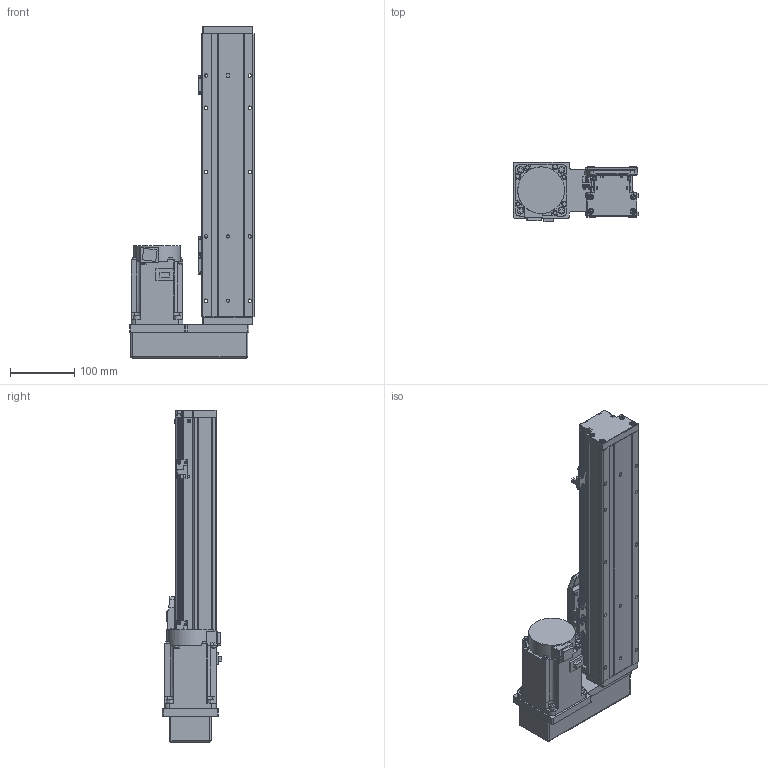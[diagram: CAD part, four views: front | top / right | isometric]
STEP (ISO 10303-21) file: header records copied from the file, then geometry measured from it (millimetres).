
FILE_DESCRIPTION (( 'STEP AP203' ), '1' );
FILE_NAME ('GTH8-250-BL-M75-C4.step', '2023-02-14T02:23:45', ( '微软用户' ), ( '微软中国' ), 'SwSTEP 2.0', 'SolidWorks 2020', '' );
FILE_SCHEMA (( 'CONFIG_CONTROL_DESIGN' ));
Length unit declared in the file: millimetre
Products named in the file (18): GTH80-003; GBT 70.1-M4×16; CTHA86-035; GTH80-004; GTH80-028; hg-kn73j_-s100; GTH80-006; GTH50-024; GTH8-250-BL-M75-C4; GTH80-013; GTH50-023; GBT 70.3-M3℅6; GBT96.1-2002 3×0.8; GTH80-022; BTH-M3X5X6; GTH80-001_250; GBT 70.1-M3℅6; CTHA86-015-3_CTHA86-015-4
Assembly tree (57 placements, depth 2):
  GTH8-250-BL-M75-C4
    GTH80-001_250
    GTH80-003
    GTH80-004
    GTH80-006
    GTH80-013
    GBT 70.3-M3℅6  x4
    GTH80-022
    GBT 70.1-M3℅6  x14
    GBT 70.1-M4×16  x8
    GTH80-028  x2
    GTH50-024  x3
    GTH50-023  x3
    GBT96.1-2002 3×0.8  x6
    BTH-M3X5X6  x8
    CTHA86-015-3_CTHA86-015-4
    CTHA86-035
    hg-kn73j_-s100
Bounding box: 193.5 x 92.3 x 516 mm (x, y, z)
Volume: 3452714.5 mm3; surface area: 388720.5 mm2
Topology: 59 solids, 59 shells, 2183 faces, 5058 edges, 3096 vertices
Faces by surface type: plane 1153, cylinder 615, cone 243, torus 158, sphere 12, bspline 2
Entity records: 39144 total; most frequent: CARTESIAN_POINT 6575, DIRECTION 6445, ORIENTED_EDGE 5926, EDGE_CURVE 2963, AXIS2_PLACEMENT_3D 2266, VECTOR 1913, LINE 1913, VERTEX_POINT 1871
